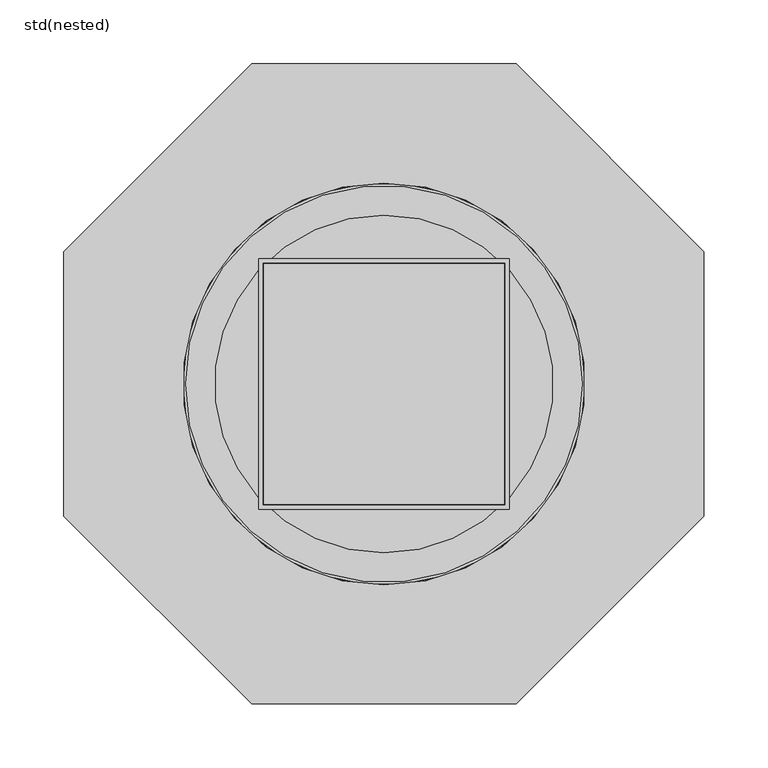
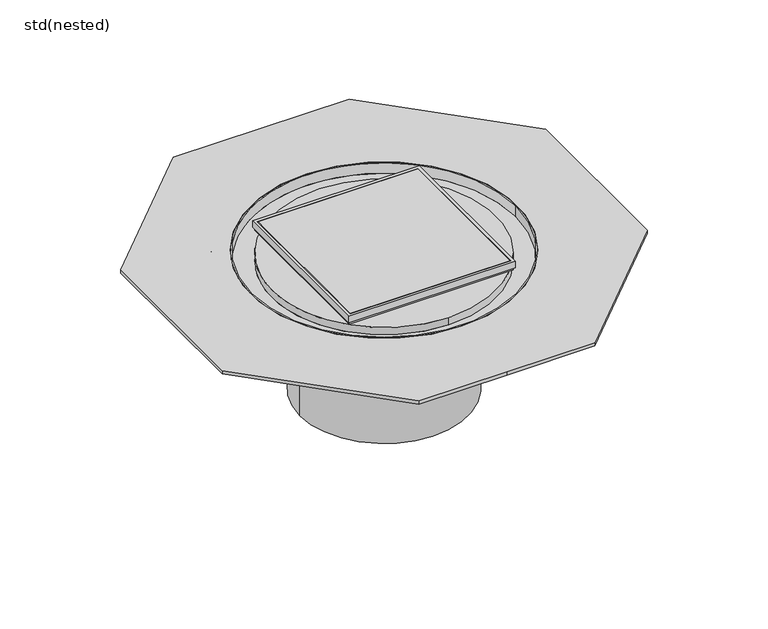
"""IFC4 building model written with IfcOpenShell, lengths in millimetres: sanitary terminal geometry, ZZZ_do not use_PF_ST_WPB_bonded sealing grating_CR 218_ACO : std(nested)."""

from ifc_helpers import new_model, si_unit, point, frame, origin, origin_2d, place, context, project, spatial, polyline, circle_curve, trimmed, segment, composite_curve, outline, extrude, faceted_brep, source, transform, mapped, element, save
from ifc_brep_helpers import plane_surface, cylinder_surface, revolved_surface, advanced_brep


def std_nested_5ceb5ad1(model_context):
    return source(origin(), model_context, "Body", "SolidModel", [
        faceted_brep([(98.0, 98.0, -8.0), (98.0, 98.0, 0.0), (98.0, -98.0, 0.0), (98.0, -98.0, -8.0), (96.5, 96.5, -8.0), (96.5, -96.5, -8.0), (96.5, -96.5, -11.0), (96.5, 96.5, -11.0), (94.5, -94.5, 0.0), (94.5, 94.5, 0.0), (94.5, 94.5, -11.0), (94.5, -94.5, -11.0), (-98.0, -98.0, 0.0), (-98.0, -98.0, -8.0), (-96.5, -96.5, -8.0), (-96.5, -96.5, -11.0), (-94.5, -94.5, 0.0), (-94.5, -94.5, -11.0), (-98.0, 98.0, 0.0), (-98.0, 98.0, -8.0), (-96.5, 96.5, -8.0), (-96.5, 96.5, -11.0), (-94.5, 94.5, 0.0), (-94.5, 94.5, -11.0)], [[[0, 1, 2, 3]], [[4, 5, 6, 7]], [[8, 9, 10, 11]], [[3, 2, 12, 13]], [[5, 14, 15, 6]], [[16, 8, 11, 17]], [[13, 12, 18, 19]], [[14, 20, 21, 15]], [[22, 16, 17, 23]], [[2, 1, 18, 12], [9, 8, 16, 22]], [[1, 0, 19, 18]], [[0, 3, 13, 19], [5, 4, 20, 14]], [[20, 4, 7, 21]], [[9, 22, 23, 10]], [[7, 6, 15, 21], [11, 10, 23, 17]]]),
        extrude(outline(polyline([(94.0, -94.0), (-94.0, -94.0), (-94.0, 94.0), (94.0, 94.0), (94.0, -94.0)])), frame((0.0, 0.0, -11.0), z_axis=(0.0, 0.0, 1.0), x_axis=(1.0, 0.0, 0.0)), (0.0, 0.0, 1.0), 11.0),
        extrude(outline(polyline([(-250.0, 103.5), (-103.5, 250.0), (0.0, 250.0), (103.5, 250.0), (250.0, 103.5), (250.0, -103.5), (103.5, -250.0), (0.0, -250.0), (-103.5, -250.0), (-250.0, -103.5), (-250.0, 103.5)]), holes=[composite_curve([segment(trimmed(circle_curve(origin_2d(), 157.0), [point((0.0, 157.0))], [point((0.0, -157.0))], True, "CARTESIAN"), True, "CONTINUOUS"), segment(trimmed(circle_curve(origin_2d(), 157.0), [point((0.0, -157.0))], [point((0.0, 157.0))], True, "CARTESIAN"), True, "CONTINUOUS")], self_intersect=False)]), frame((0.0, 0.0, -15.0), z_axis=(0.0, 0.0, 1.0), x_axis=(1.0, 0.0, 0.0)), (0.0, 0.0, 1.0), 4.0),
        advanced_brep(
        [(-155.0, 0.0, -24.0), (155.0, 0.0, -24.0), (0.0, 132.0, -24.0), (0.0, -132.0, -24.0), (0.0, 132.0, -15.0), (0.0, -132.0, -15.0), (-99.0, 0.0, -48.5), (99.0, 0.0, -48.5), (99.0, 0.0, -38.0), (-99.0, 0.0, -38.0), (-99.0, 0.0, -182.5), (99.0, 0.0, -182.5), (0.0, 177.0, -18.0), (0.0, -177.0, -18.0), (159.5, 0.0, -18.0), (-159.5, 0.0, -18.0), (0.0, 177.0, -15.0), (0.0, -177.0, -15.0), (-157.0, 0.0, -15.0), (0.0, 157.0, -15.0), (157.0, 0.0, -15.0), (0.0, -157.0, -15.0), (-159.5, 0.0, -38.0), (159.5, 0.0, -38.0), (157.0, 0.0, -11.0), (-157.0, 0.0, -11.0), (155.0, 0.0, -11.0), (-155.0, 0.0, -11.0)],
        [
            (0, 1, circle_curve(frame((0.0, 0.0, -24.0), z_axis=(0.0, 0.0, 1.0), x_axis=(-1.0, 0.0, 0.0)), 155.0)),
            (1, 0, circle_curve(frame((0.0, 0.0, -24.0), z_axis=(0.0, 0.0, 1.0), x_axis=(-1.0, 0.0, 0.0)), 155.0)),
            (2, 3, circle_curve(frame((0.0, 0.0, -24.0), z_axis=(0.0, 0.0, -1.0), x_axis=(0.0, -1.0, 0.0)), 132.0)),
            (3, 2, circle_curve(frame((0.0, 0.0, -24.0), z_axis=(0.0, 0.0, -1.0), x_axis=(0.0, -1.0, 0.0)), 132.0)),
            (2, 4),
            (4, 5, circle_curve(frame((0.0, 0.0, -15.0), z_axis=(0.0, 0.0, -1.0), x_axis=(0.0, -1.0, 0.0)), 132.0)),
            (5, 3),
            (5, 4, circle_curve(frame((0.0, 0.0, -15.0), z_axis=(0.0, 0.0, -1.0), x_axis=(0.0, -1.0, 0.0)), 132.0)),
            (6, 7, circle_curve(frame((0.0, 0.0, -48.5), z_axis=(0.0, 0.0, 1.0), x_axis=(1.0, 0.0, 0.0)), 99.0)),
            (7, 8),
            (8, 9, circle_curve(frame((0.0, 0.0, -38.0), z_axis=(0.0, 0.0, -1.0), x_axis=(1.0, 0.0, 0.0)), 99.0)),
            (9, 6),
            (7, 6, circle_curve(frame((0.0, 0.0, -48.5), z_axis=(0.0, 0.0, 1.0), x_axis=(1.0, 0.0, 0.0)), 99.0)),
            (9, 8, circle_curve(frame((0.0, 0.0, -38.0), z_axis=(0.0, 0.0, -1.0), x_axis=(1.0, 0.0, 0.0)), 99.0)),
            (10, 11, circle_curve(frame((0.0, 0.0, -182.5), z_axis=(0.0, 0.0, -1.0), x_axis=(1.0, 0.0, 0.0)), 99.0)),
            (11, 10, circle_curve(frame((0.0, 0.0, -182.5), z_axis=(0.0, 0.0, -1.0), x_axis=(1.0, 0.0, 0.0)), 99.0)),
            (11, 7),
            (6, 10),
            (12, 13, circle_curve(frame((0.0, 0.0, -18.0), z_axis=(0.0, 0.0, -1.0), x_axis=(0.0, -1.0, 0.0)), 177.0)),
            (13, 12, circle_curve(frame((0.0, 0.0, -18.0), z_axis=(0.0, 0.0, -1.0), x_axis=(0.0, -1.0, 0.0)), 177.0)),
            (14, 15, circle_curve(frame((0.0, 0.0, -18.0), z_axis=(0.0, 0.0, 1.0), x_axis=(1.0, 0.0, 0.0)), 159.5)),
            (15, 14, circle_curve(frame((0.0, 0.0, -18.0), z_axis=(0.0, 0.0, 1.0), x_axis=(1.0, 0.0, 0.0)), 159.5)),
            (16, 17, circle_curve(frame((0.0, 0.0, -15.0), z_axis=(0.0, 0.0, 1.0), x_axis=(0.0, -1.0, 0.0)), 177.0)),
            (17, 16, circle_curve(frame((0.0, 0.0, -15.0), z_axis=(0.0, 0.0, 1.0), x_axis=(0.0, -1.0, 0.0)), 177.0)),
            (18, 19, circle_curve(frame((0.0, 0.0, -15.0), z_axis=(0.0, 0.0, -1.0), x_axis=(-1.0, 0.0, 0.0)), 157.0)),
            (19, 20, circle_curve(frame((0.0, 0.0, -15.0), z_axis=(0.0, 0.0, -1.0), x_axis=(-1.0, 0.0, 0.0)), 157.0)),
            (20, 21, circle_curve(frame((0.0, 0.0, -15.0), z_axis=(0.0, 0.0, -1.0), x_axis=(-1.0, 0.0, 0.0)), 157.0)),
            (21, 18, circle_curve(frame((0.0, 0.0, -15.0), z_axis=(0.0, 0.0, -1.0), x_axis=(-1.0, 0.0, 0.0)), 157.0)),
            (13, 17),
            (16, 12),
            (22, 23, circle_curve(frame((0.0, 0.0, -38.0), z_axis=(0.0, 0.0, -1.0), x_axis=(1.0, 0.0, 0.0)), 159.5)),
            (23, 22, circle_curve(frame((0.0, 0.0, -38.0), z_axis=(0.0, 0.0, -1.0), x_axis=(1.0, 0.0, 0.0)), 159.5)),
            (22, 15),
            (14, 23),
            (24, 25, circle_curve(frame((0.0, 0.0, -11.0), z_axis=(0.0, 0.0, 1.0), x_axis=(-1.0, 0.0, 0.0)), 157.0)),
            (25, 24, circle_curve(frame((0.0, 0.0, -11.0), z_axis=(0.0, 0.0, 1.0), x_axis=(-1.0, 0.0, 0.0)), 157.0)),
            (26, 27, circle_curve(frame((0.0, 0.0, -11.0), z_axis=(0.0, 0.0, -1.0), x_axis=(-1.0, 0.0, 0.0)), 155.0)),
            (27, 26, circle_curve(frame((0.0, 0.0, -11.0), z_axis=(0.0, 0.0, -1.0), x_axis=(-1.0, 0.0, 0.0)), 155.0)),
            (24, 20),
            (18, 25),
            (26, 1),
            (0, 27),
        ],
        [
            plane_surface(frame((0.0, -132.0, -24.0), z_axis=(0.0, 0.0, 1.0), x_axis=(1.0, 0.0, 0.0))),
            cylinder_surface(frame((0.0, 0.0, -11.0), z_axis=(0.0, 0.0, 1.0), x_axis=(0.0, -1.0, 0.0)), 132.0),
            cylinder_surface(frame((0.0, 0.0, -48.5), z_axis=(0.0, 0.0, 1.0), x_axis=(1.0, 0.0, 0.0)), 99.0),
            plane_surface(frame((99.0, 0.0, -182.5), z_axis=(0.0, 0.0, -1.0), x_axis=(0.0, -1.0, 0.0))),
            cylinder_surface(frame((0.0, 0.0, -182.5), z_axis=(0.0, 0.0, 1.0), x_axis=(1.0, 0.0, 0.0)), 99.0),
            plane_surface(frame((0.0, -177.0, -18.0), z_axis=(0.0, 0.0, -1.0), x_axis=(-1.0, 0.0, 0.0))),
            plane_surface(frame((0.0, -177.0, -15.0), z_axis=(0.0, 0.0, 1.0), x_axis=(1.0, 0.0, 0.0))),
            cylinder_surface(frame((0.0, 0.0, -15.0), z_axis=(0.0, 0.0, -1.0), x_axis=(0.0, -1.0, 0.0)), 177.0),
            plane_surface(frame((159.5, 0.0, -38.0), z_axis=(0.0, 0.0, -1.0), x_axis=(0.0, -1.0, 0.0))),
            cylinder_surface(frame((0.0, 0.0, -18.0), z_axis=(0.0, 0.0, -1.0), x_axis=(1.0, 0.0, 0.0)), 159.5),
            plane_surface(frame((-157.0, 0.0, -11.0), z_axis=(0.0, 0.0, 1.0), x_axis=(0.0, -1.0, 0.0))),
            cylinder_surface(frame((0.0, 0.0, -24.0), z_axis=(0.0, 0.0, 1.0), x_axis=(-1.0, 0.0, 0.0)), 157.0),
            revolved_surface(polyline([(-155.0, 0.0, -24.0), (-155.0, 0.0, -11.0)]), (0.0, 0.0, -11.0), (0.0, 0.0, -1.0)),
        ],
        [
            (0, [[1, 2], [3, 4]]),
            (1, [[-3, 5, 6, 7]]),
            (1, [[-4, -7, 8, -5]]),
            (2, [[9, 10, 11, 12]]),
            (2, [[13, -12, 14, -10]]),
            (3, [[15, 16]]),
            (4, [[-16, 17, -9, 18]]),
            (4, [[-15, -18, -13, -17]]),
            (5, [[19, 20], [21, 22]]),
            (6, [[-6, -8]]),
            (6, [[23, 24], [25, 26, 27, 28]]),
            (7, [[-20, 29, -23, 30]]),
            (7, [[-19, -30, -24, -29]]),
            (8, [[31, 32], [-11, -14]]),
            (9, [[-31, 33, -21, 34]]),
            (9, [[-32, -34, -22, -33]]),
            (10, [[35, 36], [37, 38]]),
            (11, [[-35, 39, -26, -25, 40]]),
            (11, [[-36, -40, -28, -27, -39]]),
            (12, [[-37, 41, -1, 42]]),
            (12, [[-38, -42, -2, -41]]),
        ],
    ),
    ])


if __name__ == "__main__":
    model = new_model("IFC4")
    model_context = context("Model", 3, world=origin())
    ifc_project = project(units=[si_unit("LENGTHUNIT", "METRE", prefix="MILLI")], contexts=[model_context])
    site = spatial("IfcSite", under=ifc_project)
    building = spatial("IfcBuilding", under=site)
    placement = place(None, origin())
    std_nested_shape = std_nested_5ceb5ad1(model_context)
    element("IfcSanitaryTerminal", 1, ObjectType="ZZZ_do not use_PF_ST_WPB_bonded sealing grating_CR 218_ACO : std(nested)", at=placement, inside=building, context=model_context, shape_type="MappedRepresentation", body=[
        mapped(std_nested_shape, transform((0.0, 0.0, 0.0), x_axis=(1.0, 0.0, 0.0), y_axis=(0.0, 1.0, 0.0), z_axis=(0.0, 0.0, 1.0))),
    ])
    save(model, "model.ifc")
